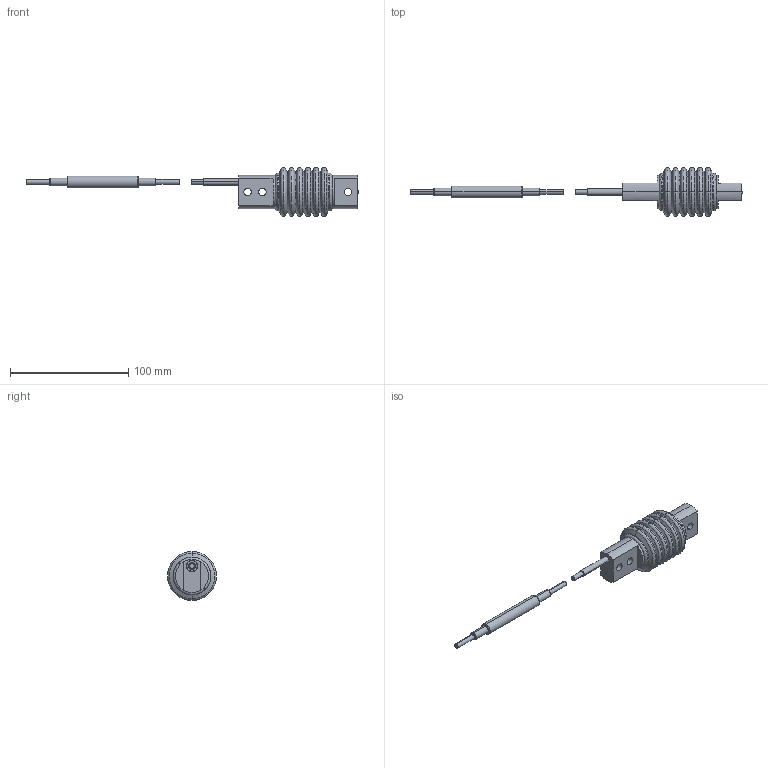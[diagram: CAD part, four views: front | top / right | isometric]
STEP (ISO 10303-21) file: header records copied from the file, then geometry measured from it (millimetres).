
FILE_DESCRIPTION(('STEP AP203'),'1');
FILE_NAME('C:/TPO v2/SharedFS/Outgoing/burster_8511-6002-v010_8h80z0x00vcscm2a02q7g3ceo.stp','2013-08-26T19:48:03',('TraceParts'),('TraceParts S.A.'),'XStep 1.0',' ',' ');
FILE_SCHEMA(('CONFIG_CONTROL_DESIGN'));
Length unit declared in the file: millimetre
Products named in the file (2): 1; 2
Bounding box: 281.31 x 41.42 x 41.42 mm (x, y, z)
Volume: 81865.7 mm3; surface area: 19135.8 mm2
Topology: 2 solids, 2 shells, 115 faces, 260 edges, 157 vertices
Faces by surface type: cone 32, cylinder 30, torus 26, plane 23, bspline 4
Entity records: 3645 total; most frequent: CARTESIAN_POINT 865, DIRECTION 645, ORIENTED_EDGE 520, AXIS2_PLACEMENT_3D 279, EDGE_CURVE 260, CIRCLE 166, VERTEX_POINT 157, EDGE_LOOP 129
